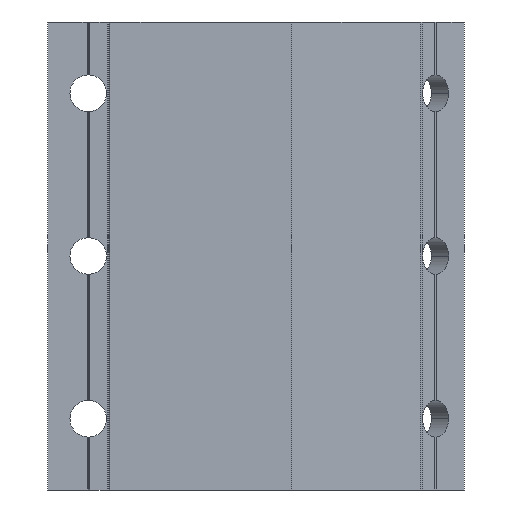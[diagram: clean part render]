
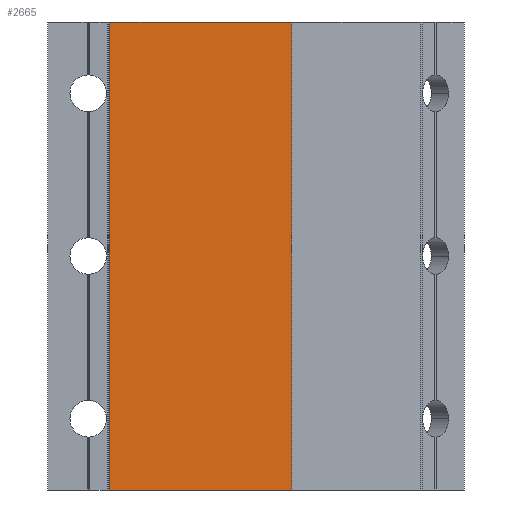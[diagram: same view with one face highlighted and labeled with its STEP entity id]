
A CAD part, front view. The second image highlights one B-rep face of the part: STEP entity #2665.
In plain terms, the highlighted planar face has unit normal (0, -1, 0).
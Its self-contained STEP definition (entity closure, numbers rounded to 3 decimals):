
#93 = CARTESIAN_POINT ( 'NONE',  ( 0., 0., -57.5 ) ) ;
#99 = CARTESIAN_POINT ( 'NONE',  ( -44.7, 0., -57.5 ) ) ;
#114 = EDGE_CURVE ( 'NONE', #201, #2303, #133, .T. ) ;
#133 = LINE ( 'NONE', #2180, #1331 ) ;
#146 = ORIENTED_EDGE ( 'NONE', *, *, #2453, .F. ) ;
#201 = VERTEX_POINT ( 'NONE', #99 ) ;
#477 = EDGE_LOOP ( 'NONE', ( #2099, #146, #745, #957 ) ) ;
#745 = ORIENTED_EDGE ( 'NONE', *, *, #764, .F. ) ;
#764 = EDGE_CURVE ( 'NONE', #1823, #1244, #906, .T. ) ;
#795 = DIRECTION ( 'NONE',  ( 1., 0., 0. ) ) ;
#860 = DIRECTION ( 'NONE',  ( 0., 1., 0. ) ) ;
#906 = LINE ( 'NONE', #2764, #2559 ) ;
#957 = ORIENTED_EDGE ( 'NONE', *, *, #1194, .T. ) ;
#1095 = CARTESIAN_POINT ( 'NONE',  ( 0., 0., 57.5 ) ) ;
#1162 = DIRECTION ( 'NONE',  ( 1., 0., 0. ) ) ;
#1194 = EDGE_CURVE ( 'NONE', #1823, #201, #1297, .T. ) ;
#1210 = VECTOR ( 'NONE', #1916, 1000. ) ;
#1220 = DIRECTION ( 'NONE',  ( 0., 0., -1. ) ) ;
#1244 = VERTEX_POINT ( 'NONE', #1266 ) ;
#1266 = CARTESIAN_POINT ( 'NONE',  ( 0., 0., 57.5 ) ) ;
#1297 = LINE ( 'NONE', #1684, #1210 ) ;
#1331 = VECTOR ( 'NONE', #795, 1000. ) ;
#1528 = CARTESIAN_POINT ( 'NONE',  ( -44.7, 0., 57.5 ) ) ;
#1596 = LINE ( 'NONE', #2701, #2112 ) ;
#1684 = CARTESIAN_POINT ( 'NONE',  ( -44.7, 0., 57.5 ) ) ;
#1768 = PLANE ( 'NONE',  #2402 ) ;
#1823 = VERTEX_POINT ( 'NONE', #1528 ) ;
#1916 = DIRECTION ( 'NONE',  ( 0., 0., -1. ) ) ;
#2099 = ORIENTED_EDGE ( 'NONE', *, *, #114, .T. ) ;
#2112 = VECTOR ( 'NONE', #1220, 1000. ) ;
#2145 = FACE_OUTER_BOUND ( 'NONE', #477, .T. ) ;
#2180 = CARTESIAN_POINT ( 'NONE',  ( 0., 0., -57.5 ) ) ;
#2303 = VERTEX_POINT ( 'NONE', #93 ) ;
#2402 = AXIS2_PLACEMENT_3D ( 'NONE', #1095, #860, #2452 ) ;
#2452 = DIRECTION ( 'NONE',  ( -1., 0., 0. ) ) ;
#2453 = EDGE_CURVE ( 'NONE', #1244, #2303, #1596, .T. ) ;
#2559 = VECTOR ( 'NONE', #1162, 1000. ) ;
#2665 = ADVANCED_FACE ( 'NONE', ( #2145 ), #1768, .F. ) ;
#2701 = CARTESIAN_POINT ( 'NONE',  ( 0., 0., 57.5 ) ) ;
#2764 = CARTESIAN_POINT ( 'NONE',  ( 0., 0., 57.5 ) ) ;
